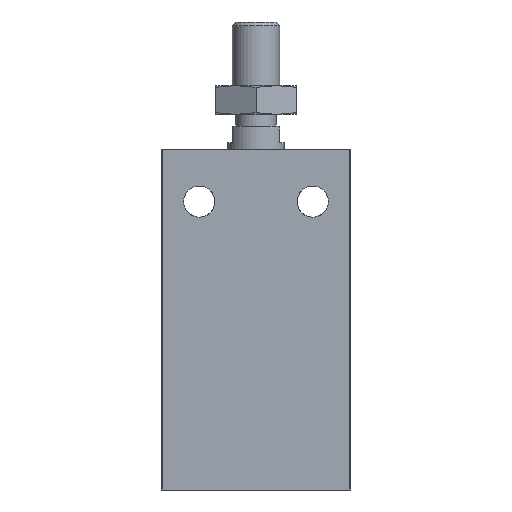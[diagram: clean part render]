
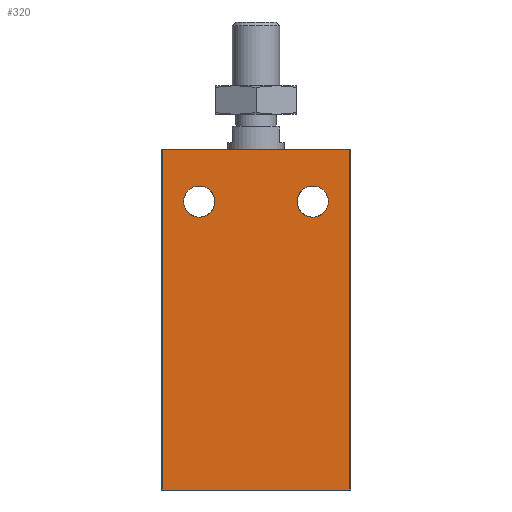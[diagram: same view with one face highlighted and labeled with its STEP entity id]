
A CAD part, front view. The second image highlights one B-rep face of the part: STEP entity #320.
In plain terms, the highlighted planar face has unit normal (0, -1, 0).
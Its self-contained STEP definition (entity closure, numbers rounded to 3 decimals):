
#320 = ADVANCED_FACE( '', ( #708, #709, #710 ), #711, .T. );
#708 = FACE_BOUND( '', #1214, .T. );
#709 = FACE_BOUND( '', #1215, .T. );
#710 = FACE_OUTER_BOUND( '', #1216, .T. );
#711 = PLANE( '', #1217 );
#1214 = EDGE_LOOP( '', ( #1988 ) );
#1215 = EDGE_LOOP( '', ( #1989 ) );
#1216 = EDGE_LOOP( '', ( #1990, #1991, #1992, #1993 ) );
#1217 = AXIS2_PLACEMENT_3D( '', #1994, #1995, #1996 );
#1988 = ORIENTED_EDGE( '', *, *, #2994, .F. );
#1989 = ORIENTED_EDGE( '', *, *, #3052, .F. );
#1990 = ORIENTED_EDGE( '', *, *, #2882, .F. );
#1991 = ORIENTED_EDGE( '', *, *, #3053, .F. );
#1992 = ORIENTED_EDGE( '', *, *, #3054, .T. );
#1993 = ORIENTED_EDGE( '', *, *, #3055, .T. );
#1994 = CARTESIAN_POINT( '', ( -19.8, -31., -72. ) );
#1995 = DIRECTION( '', ( 0., -1., 0. ) );
#1996 = DIRECTION( '', ( 1., 0., 0. ) );
#2882 = EDGE_CURVE( '', #3416, #3418, #3419, .T. );
#2994 = EDGE_CURVE( '', #3608, #3608, #3609, .T. );
#3052 = EDGE_CURVE( '', #3694, #3694, #3695, .T. );
#3053 = EDGE_CURVE( '', #3696, #3416, #3697, .T. );
#3054 = EDGE_CURVE( '', #3696, #3698, #3699, .T. );
#3055 = EDGE_CURVE( '', #3698, #3418, #3700, .T. );
#3416 = VERTEX_POINT( '', #4256 );
#3418 = VERTEX_POINT( '', #4258 );
#3419 = LINE( '', #4259, #4260 );
#3608 = VERTEX_POINT( '', #4827 );
#3609 = CIRCLE( '', #4828, 3.3 );
#3694 = VERTEX_POINT( '', #5020 );
#3695 = CIRCLE( '', #5021, 3.3 );
#3696 = VERTEX_POINT( '', #5022 );
#3697 = LINE( '', #5023, #5024 );
#3698 = VERTEX_POINT( '', #5025 );
#3699 = LINE( '', #5026, #5027 );
#3700 = LINE( '', #5028, #5029 );
#4256 = CARTESIAN_POINT( '', ( -19.8, -31., 0. ) );
#4258 = CARTESIAN_POINT( '', ( 19.8, -31., 0. ) );
#4259 = CARTESIAN_POINT( '', ( -19.8, -31., 0. ) );
#4260 = VECTOR( '', #6049, 1000. );
#4827 = CARTESIAN_POINT( '', ( -12., -31., -14.3 ) );
#4828 = AXIS2_PLACEMENT_3D( '', #6177, #6178, #6179 );
#5020 = CARTESIAN_POINT( '', ( 12., -31., -14.3 ) );
#5021 = AXIS2_PLACEMENT_3D( '', #6231, #6232, #6233 );
#5022 = CARTESIAN_POINT( '', ( -19.8, -31., -72. ) );
#5023 = CARTESIAN_POINT( '', ( -19.8, -31., -72. ) );
#5024 = VECTOR( '', #6234, 1000. );
#5025 = CARTESIAN_POINT( '', ( 19.8, -31., -72. ) );
#5026 = CARTESIAN_POINT( '', ( -19.8, -31., -72. ) );
#5027 = VECTOR( '', #6235, 1000. );
#5028 = CARTESIAN_POINT( '', ( 19.8, -31., -72. ) );
#5029 = VECTOR( '', #6236, 1000. );
#6049 = DIRECTION( '', ( 1., 0., 0. ) );
#6177 = CARTESIAN_POINT( '', ( -12., -31., -11. ) );
#6178 = DIRECTION( '', ( 0., -1., 0. ) );
#6179 = DIRECTION( '', ( 0., 0., -1. ) );
#6231 = CARTESIAN_POINT( '', ( 12., -31., -11. ) );
#6232 = DIRECTION( '', ( 0., -1., 0. ) );
#6233 = DIRECTION( '', ( 0., 0., -1. ) );
#6234 = DIRECTION( '', ( 0., 0., 1. ) );
#6235 = DIRECTION( '', ( 1., 0., 0. ) );
#6236 = DIRECTION( '', ( 0., 0., 1. ) );
